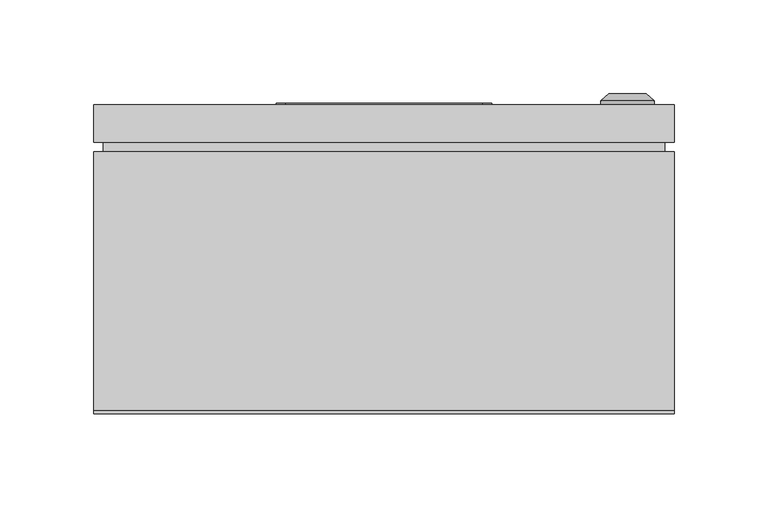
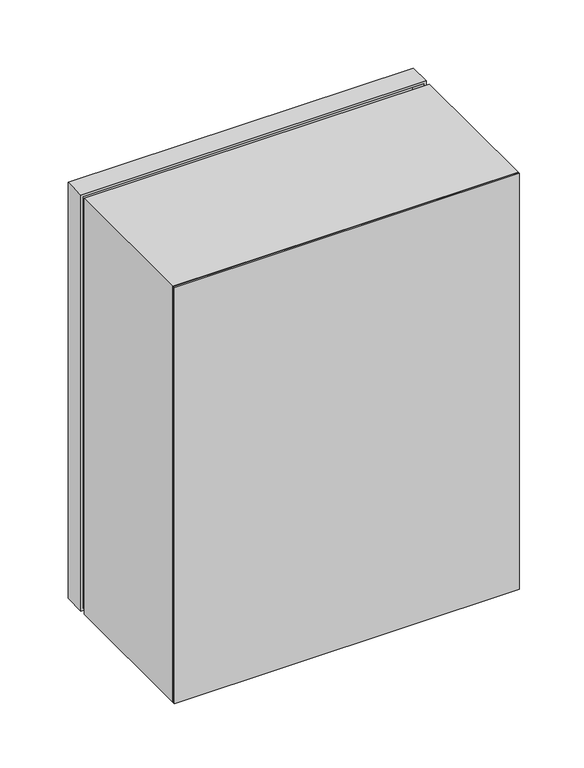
"""IFC4 building model written with IfcOpenShell, lengths in millimetres: proxy geometry, ЩУ-3ф_1-0-3_IP66 : ЩУ-3ф/1-0-3_IP66."""

from ifc_helpers import new_model, si_unit, point, frame, frame_2d, origin, origin_with_axes, place, context, project, spatial, polyline, circle_curve, trimmed, segment, composite_curve, outline, extrude, faceted_brep, source, transform, mapped, element, save
from ifc_brep_helpers import plane_surface, cylinder_surface, revolved_surface, advanced_brep


def electrical_equipment_5376e35c(model_context):
    return source(origin(), model_context, "Body", "SolidModel", [
        extrude(outline(composite_curve([segment(polyline([(292.5, 52.5), (292.5, -52.5)]), True, "CONTINUOUS"), segment(trimmed(circle_curve(frame_2d((287.5, -52.5)), 5.0), [point((292.5, -52.5))], [point((287.5, -57.5))], False, "CARTESIAN"), True, "CONTINUOUS"), segment(polyline([(287.5, -57.5), (217.5, -57.5)]), True, "CONTINUOUS"), segment(trimmed(circle_curve(frame_2d((217.5, -52.5)), 5.0), [point((217.5, -57.5))], [point((212.5, -52.5))], False, "CARTESIAN"), True, "CONTINUOUS"), segment(polyline([(212.5, -52.5), (212.5, 52.5)]), True, "CONTINUOUS"), segment(trimmed(circle_curve(frame_2d((217.5, 52.5)), 5.0), [point((212.5, 52.5))], [point((217.5, 57.5))], False, "CARTESIAN"), True, "CONTINUOUS"), segment(polyline([(217.5, 57.5), (287.5, 57.5)]), True, "CONTINUOUS"), segment(trimmed(circle_curve(frame_2d((287.5, 52.5)), 5.0), [point((287.5, 57.5))], [point((292.5, 52.5))], False, "CARTESIAN"), True, "CONTINUOUS")], self_intersect=False), holes=[polyline([(287.5, -52.5), (287.5, 52.5), (217.5, 52.5), (217.5, -52.5), (287.5, -52.5)])]), frame((0.0, 165.0, 0.0), z_axis=(0.0, 1.0, 0.0), x_axis=(0.0, 0.0, 1.0)), (0.0, 0.0, 1.0), 1.0),
        extrude(outline(polyline([(52.5, 163.0), (-52.5, 163.0), (-52.5, 165.0), (52.5, 165.0), (52.5, 163.0)])), frame((0.0, 0.0, 217.5), z_axis=(0.0, 0.0, 1.0), x_axis=(1.0, 0.0, 0.0)), (0.0, 0.0, 1.0), 70.0),
        faceted_brep([(-155.0, 145.0, 395.0), (-155.0, 145.0, 0.0), (155.0, 145.0, 0.0), (155.0, 145.0, 395.0), (-153.0033905, 145.0, 2.0), (-153.0033905, 145.0, 393.0), (152.9966095, 145.0, 393.0), (152.9966095, 145.0, 2.0), (-155.0, 165.0, 395.0), (155.0, 165.0, 395.0), (155.0, 165.0, 0.0), (-155.0, 165.0, 0.0), (-52.5, 165.0, 287.5), (-52.5, 165.0, 217.5), (52.5, 165.0, 217.5), (52.5, 165.0, 287.5), (-153.0033905, 163.0, 393.0), (-153.0033905, 163.0, 2.0), (152.9966095, 163.0, 2.0), (152.9966095, 163.0, 393.0), (-52.5, 163.0, 287.5), (52.5, 163.0, 287.5), (52.5, 163.0, 217.5), (-52.5, 163.0, 217.5)], [[[0, 1, 2, 3], [4, 5, 6, 7]], [[8, 9, 10, 11], [12, 13, 14, 15]], [[1, 0, 8, 11]], [[2, 1, 11, 10]], [[3, 2, 10, 9]], [[0, 3, 9, 8]], [[16, 17, 18, 19], [20, 21, 22, 23]], [[17, 16, 5, 4]], [[18, 17, 4, 7]], [[19, 18, 7, 6]], [[16, 19, 6, 5]], [[12, 15, 21, 20]], [[15, 14, 22, 21]], [[14, 13, 23, 22]], [[13, 12, 20, 23]]]),
        extrude(outline(polyline([(395.0, -155.0033905), (0.0, -155.0033905), (0.0, 154.9966095), (395.0, 154.9966095), (395.0, -155.0033905)]), holes=[polyline([(370.0, -125.0033905), (370.0, 129.9966095), (25.0, 129.9966095), (25.0, -125.0033905), (370.0, -125.0033905)])]), frame((0.0, 2.0, 0.0), z_axis=(0.0, 1.0, 0.0), x_axis=(0.0, 0.0, 1.0)), (0.0, 0.0, 1.0), 138.0),
        extrude(outline(polyline([(155.0, 0.0), (-155.0, 0.0), (-155.0, 2.0), (155.0, 2.0), (155.0, 0.0)])), origin_with_axes(), (0.0, 0.0, 1.0), 395.0),
        extrude(outline(polyline([(150.0, 140.0), (-150.0, 140.0), (-150.0, 145.0), (150.0, 145.0), (150.0, 140.0)])), frame((0.0, 0.0, 5.0), z_axis=(0.0, 0.0, 1.0), x_axis=(1.0, 0.0, 0.0)), (0.0, 0.0, 1.0), 385.0),
        advanced_brep(
        [(115.669873, 165.0, 197.5), (144.330127, 165.0, 197.5), (130.0, 165.0, 197.5), (115.669873, 167.366592, 197.5), (144.330127, 167.366592, 197.5), (120.0, 171.0, 197.5), (140.0, 171.0, 197.5), (128.1080471, 171.0, 197.5), (131.8919529, 171.0, 197.5), (128.1080471, 169.9822294, 197.5), (131.8919529, 169.9822294, 197.5), (130.0, 169.9822294, 197.5)],
        [
            (0, 1, circle_curve(frame((130.0, 165.0, 197.5), z_axis=(0.0, -1.0, 0.0), x_axis=(1.0, 0.0, 0.0)), 14.330127)),
            (1, 2),
            (2, 0),
            (1, 0, circle_curve(frame((130.0, 165.0, 197.5), z_axis=(0.0, -1.0, 0.0), x_axis=(1.0, 0.0, 0.0)), 14.330127)),
            (3, 4, circle_curve(frame((130.0, 167.366592, 197.5), z_axis=(0.0, -1.0, 0.0), x_axis=(1.0, 0.0, 0.0)), 14.330127)),
            (4, 1),
            (0, 3),
            (4, 3, circle_curve(frame((130.0, 167.366592, 197.5), z_axis=(0.0, -1.0, 0.0), x_axis=(1.0, 0.0, 0.0)), 14.330127)),
            (5, 6, circle_curve(frame((130.0, 171.0, 197.5), z_axis=(0.0, -1.0, 0.0), x_axis=(1.0, 0.0, 0.0)), 10.0)),
            (6, 4),
            (3, 5),
            (6, 5, circle_curve(frame((130.0, 171.0, 197.5), z_axis=(0.0, -1.0, 0.0), x_axis=(1.0, 0.0, 0.0)), 10.0)),
            (7, 8, circle_curve(frame((130.0, 171.0, 197.5), z_axis=(0.0, -1.0, 0.0), x_axis=(1.0, 0.0, 0.0)), 1.8919529)),
            (8, 6),
            (5, 7),
            (8, 7, circle_curve(frame((130.0, 171.0, 197.5), z_axis=(0.0, -1.0, 0.0), x_axis=(1.0, 0.0, 0.0)), 1.8919529)),
            (9, 10, circle_curve(frame((130.0, 169.9822294, 197.5), z_axis=(0.0, -1.0, 0.0), x_axis=(1.0, 0.0, 0.0)), 1.8919529)),
            (10, 8),
            (7, 9),
            (10, 9, circle_curve(frame((130.0, 169.9822294, 197.5), z_axis=(0.0, -1.0, 0.0), x_axis=(1.0, 0.0, 0.0)), 1.8919529)),
            (11, 10),
            (9, 11),
        ],
        [
            plane_surface(frame((130.0, 165.0, 197.5), z_axis=(0.0, -1.0, 0.0), x_axis=(1.0, 0.0, 0.0))),
            cylinder_surface(frame((130.0, 178.1348851, 197.5), z_axis=(0.0, 1.0, 0.0), x_axis=(1.0, 0.0, 0.0)), 14.330127),
            revolved_surface(polyline([(144.330127, 167.366592, 197.5), (140.0, 171.0, 197.5)]), (130.0, 178.1348851, 197.5), (0.0, 1.0, 0.0)),
            plane_surface(frame((130.0, 171.0, 197.5), z_axis=(0.0, 1.0, 0.0), x_axis=(1.0, 0.0, 0.0))),
            revolved_surface(polyline([(131.8919529, 171.0, 197.5), (131.8919529, 169.9822294, 197.5)]), (130.0, 178.1348851, 197.5), (0.0, 1.0, 0.0)),
            plane_surface(frame((130.0, 169.9822294, 197.5), z_axis=(0.0, 1.0, 0.0), x_axis=(1.0, 0.0, 0.0))),
        ],
        [
            (0, [[1, 2, 3]]),
            (0, [[4, -3, -2]]),
            (1, [[5, 6, -1, 7]]),
            (1, [[8, -7, -4, -6]]),
            (2, [[9, 10, -5, 11]]),
            (2, [[12, -11, -8, -10]]),
            (3, [[13, 14, -9, 15]]),
            (3, [[16, -15, -12, -14]]),
            (4, [[17, 18, -13, 19]]),
            (4, [[20, -19, -16, -18]]),
            (5, [[21, -17, 22]]),
            (5, [[-22, -20, -21]]),
        ],
    ),
    ])


if __name__ == "__main__":
    model = new_model("IFC4")
    model_context = context("Model", 3, world=origin())
    ifc_project = project(units=[si_unit("LENGTHUNIT", "METRE", prefix="MILLI")], contexts=[model_context])
    site = spatial("IfcSite", under=ifc_project)
    building = spatial("IfcBuilding", under=site)
    placement = place(None, origin())
    electrical_equipment_shape = electrical_equipment_5376e35c(model_context)
    element("IfcBuildingElementProxy", 1, Name="ЩУ-3ф_1-0-3_IP66 : ЩУ-3ф/1-0-3_IP66", ObjectType="ЩУ-3ф_1-0-3_IP66 : ЩУ-3ф/1-0-3_IP66", at=placement, inside=building, context=model_context, shape_type="MappedRepresentation", body=[
        mapped(electrical_equipment_shape, transform((0.0, 0.0, 0.0), x_axis=(1.0, 0.0, 0.0), y_axis=(0.0, 1.0, 0.0), z_axis=(0.0, 0.0, 1.0))),
    ])
    save(model, "model.ifc")
